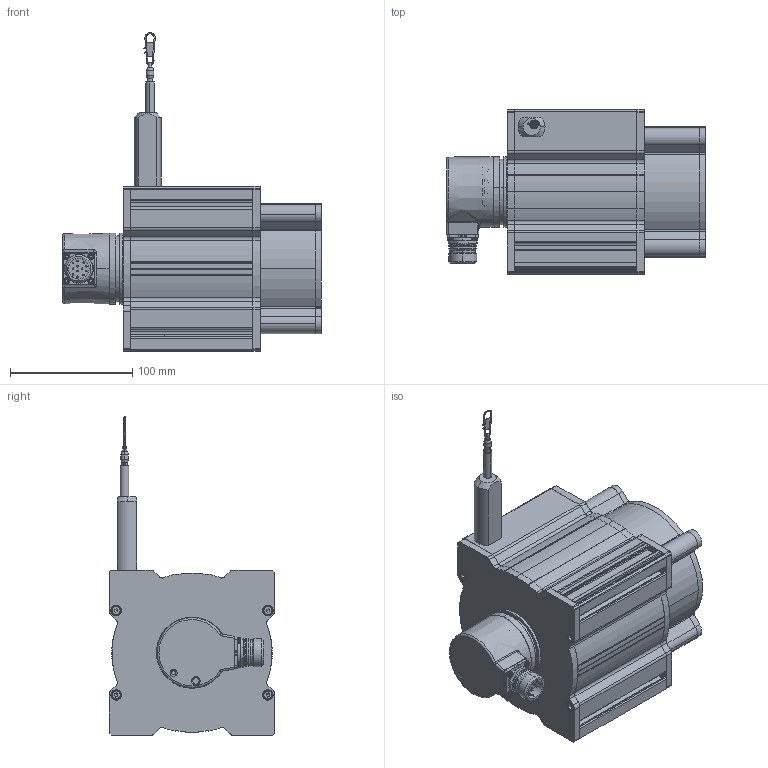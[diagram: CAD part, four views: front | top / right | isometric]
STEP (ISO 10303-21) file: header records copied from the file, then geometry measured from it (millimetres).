
FILE_DESCRIPTION (( 'STEP AP214' ), '1' );
FILE_NAME ('D8.4D1.2000.6324.G123.STEP', '2009-05-12T09:37:21', ( 'admin' ), ( 'Fritz Kübler GmbH' ), 'SwSTEP 2.0', 'SolidWorks 2009', '' );
FILE_SCHEMA (( 'AUTOMOTIVE_DESIGN' ));
Length unit declared in the file: millimetre
Products named in the file (1): D8.4D1.2000.6324.G123
Bounding box: 211.5 x 135 x 260.32 mm (x, y, z)
Volume: 611757.9 mm3; surface area: 335281.7 mm2
Topology: 39 solids, 41 shells, 2016 faces, 5190 edges, 3285 vertices
Faces by surface type: cylinder 940, plane 590, cone 280, torus 133, bspline 44, sphere 29
Entity records: 87566 total; most frequent: CARTESIAN_POINT 14913, DIRECTION 11154, ORIENTED_EDGE 10192, EDGE_CURVE 5096, AXIS2_PLACEMENT_3D 4450, VERTEX_POINT 3272, CIRCLE 2477, LINE 2254
